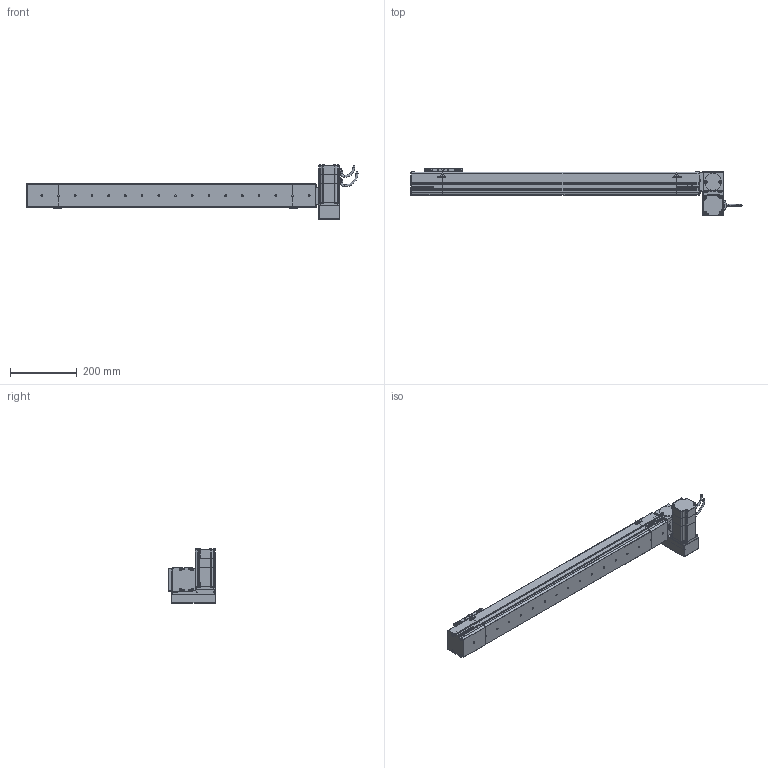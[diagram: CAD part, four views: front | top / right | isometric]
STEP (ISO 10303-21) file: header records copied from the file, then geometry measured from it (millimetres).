
FILE_DESCRIPTION (( 'STEP AP214' ), '1' );
FILE_NAME ('S07 CBN RU S700.STEP', '2010-06-29T09:56:25', ( 'Conseil Régional Haute-Normandie' ), ( 'Conseil Régional Haute-Normandie' ), 'SwSTEP 2.0', 'SolidWorks 2010', '' );
FILE_SCHEMA (( 'AUTOMOTIVE_DESIGN' ));
Length unit declared in the file: millimetre
Products named in the file (31): plaque de serrage RU_Default; support chariot_Default; Plaque de bout RU_Default; Rondelle de Serrage RU_Default; Couvercle RU_Default; plaque de serrage Tail_Default; Plaque de bout Tail_Default; Couvercle Tail_Default; chariot_Default; Chariot S07_Default; vis M5 L15_Default; Corp Tail_Default; Tail S07 Tail_Default; Couvercle S07 S700_Default; Corp S07 S700_Default; Cache Support Moteur RU_Default; Support Moteur RU_Default; P1_Default; VisM3_Default; Conecteur2 60BLDC_Default; 60BLDC90A-640_Default; Conecteur 60BLDC_Default; Axe 60BLDC_Default; vis M5 L8_Default; P4_Default; P3 90A_Default; P2 90A_Default; Corp RU_Default; Head RU_Default; S07 CBN RU S700
Assembly tree (71 placements, depth 4):
  S07 CBN RU S700
    Corp S07 S700_Default
      Couvercle S07 S700_Default
      Corp S07 S700_Default
    Chariot S07_Default
      vis M5 L8_Default  x8
      chariot_Default
      support chariot_Default
    Head RU_Default
      Support Moteur RU_Default
      Plaque de bout RU_Default
      Rondelle de Serrage RU_Default  x3
      vis M5 L15_Default  x16
      plaque de serrage RU_Default
      Corp RU_Default
      Cache Support Moteur RU_Default
      60BLDC90A-640_Default
        VisM3_Default  x12
        P3 90A_Default
        P4_Default
        P1_Default
        Conecteur2 60BLDC_Default
        P2 90A_Default
        Conecteur 60BLDC_Default
        Axe 60BLDC_Default
      Couvercle RU_Default
    Tail S07 Tail_Default
      vis M5 L15_Default  x6
      plaque de serrage Tail_Default
      Couvercle Tail_Default
      Plaque de bout Tail_Default
      Corp Tail_Default
Bounding box: 993.2 x 142 x 162 mm (x, y, z)
Volume: 4725856.6 mm3; surface area: 634487.9 mm2
Topology: 108 solids, 108 shells, 3892 faces, 9590 edges, 6172 vertices
Faces by surface type: plane 2250, bspline 756, cylinder 675, torus 112, cone 95, sphere 4
Entity records: 153353 total; most frequent: CARTESIAN_POINT 79591, ORIENTED_EDGE 14700, DIRECTION 10963, EDGE_CURVE 7350, VERTEX_POINT 4857, VECTOR 4773, LINE 4773, EDGE_LOOP 3149
